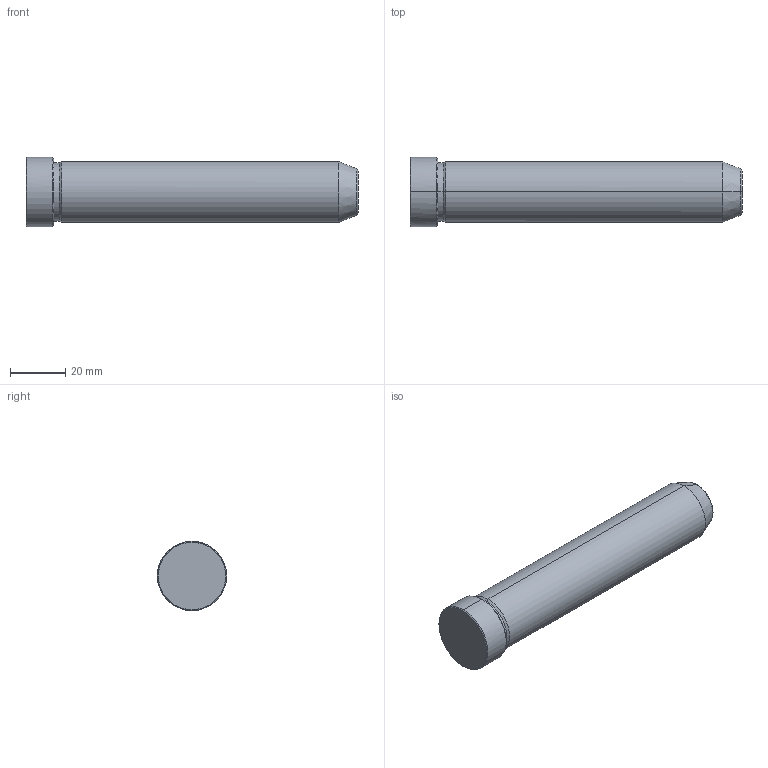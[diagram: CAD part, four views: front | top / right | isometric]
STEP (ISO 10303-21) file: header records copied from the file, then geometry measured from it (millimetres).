
FILE_DESCRIPTION(('CATIA V5 STEP Exchange'),'2;1');
FILE_NAME('C:\Users\Utente\Desktop\IO LAVORO\3D X SITO CF\X SITO\PLASTICA\549\549-22X120.stp','2021-12-13T12:59:38+00:00',('none'),('none'),'CATIA Version 5 Release 20 GA (IN-10)','CATIA V5 STEP AP203','none');
FILE_SCHEMA(('CONFIG_CONTROL_DESIGN'));
Length unit declared in the file: millimetre
Products named in the file (1): 549-22X120
Bounding box: 120 x 25 x 25 mm (x, y, z)
Volume: 46004.4 mm3; surface area: 9169.2 mm2
Topology: 1 solids, 1 shells, 19 faces, 56 edges, 40 vertices
Faces by surface type: cone 8, cylinder 6, plane 3, torus 2
Entity records: 736 total; most frequent: CARTESIAN_POINT 192, ORIENTED_EDGE 112, DIRECTION 86, EDGE_CURVE 56, AXIS2_PLACEMENT_3D 54, VERTEX_POINT 40, CIRCLE 34, EDGE_LOOP 20
